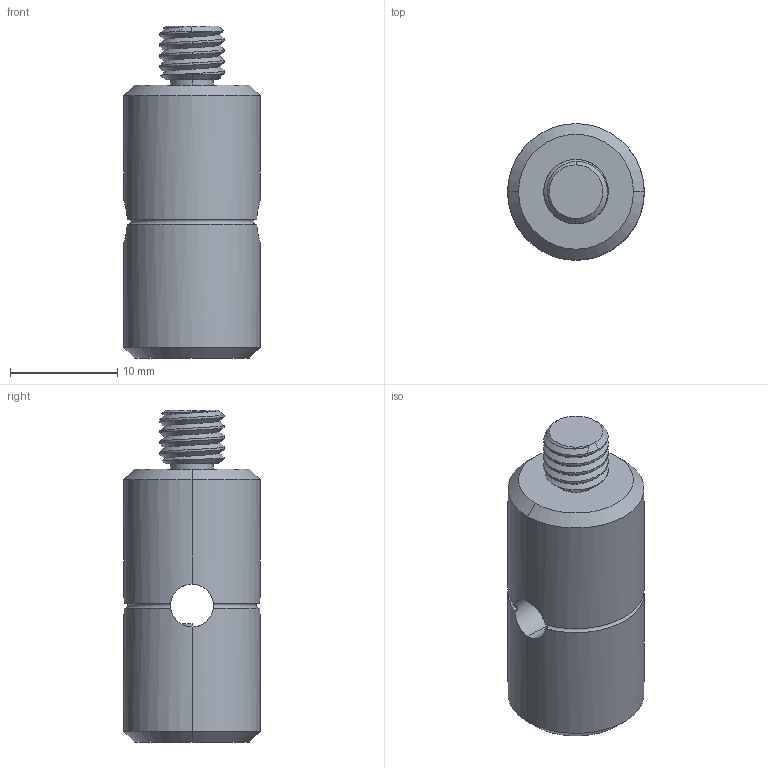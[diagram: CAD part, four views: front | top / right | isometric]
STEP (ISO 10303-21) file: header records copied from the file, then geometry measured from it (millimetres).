
FILE_DESCRIPTION((''),'2;1');
FILE_NAME('PCAH1-A','2023-03-14T14:21:32',('R&D'),(''),'CREO PARAMETRIC BY PTC INC, 2022162','CREO PARAMETRIC BY PTC INC, 2022162','');
FILE_SCHEMA(('CONFIG_CONTROL_DESIGN'));
Length unit declared in the file: millimetre
Products named in the file (1): PCAH1-A
Bounding box: 12.7 x 12.7 x 30.9 mm (x, y, z)
Volume: 2856.6 mm3; surface area: 1723.3 mm2
Topology: 1 solids, 1 shells, 72 faces, 196 edges, 125 vertices
Faces by surface type: cylinder 37, bspline 16, cone 10, plane 7, torus 2
Entity records: 5174 total; most frequent: CARTESIAN_POINT 3533, ORIENTED_EDGE 392, DIRECTION 240, EDGE_CURVE 196, VERTEX_POINT 125, B_SPLINE_CURVE_WITH_KNOTS 100, AXIS2_PLACEMENT_3D 88, EDGE_LOOP 75
